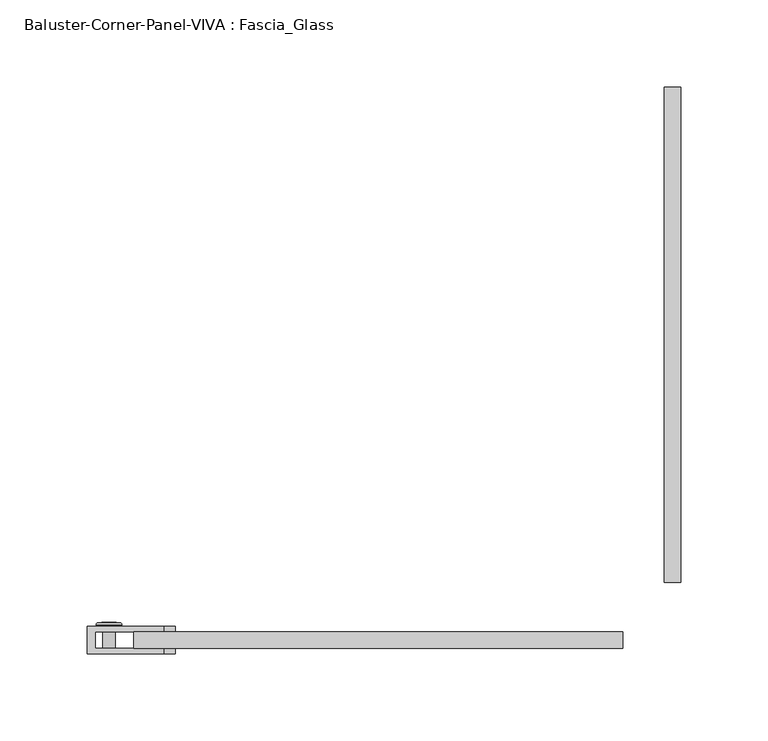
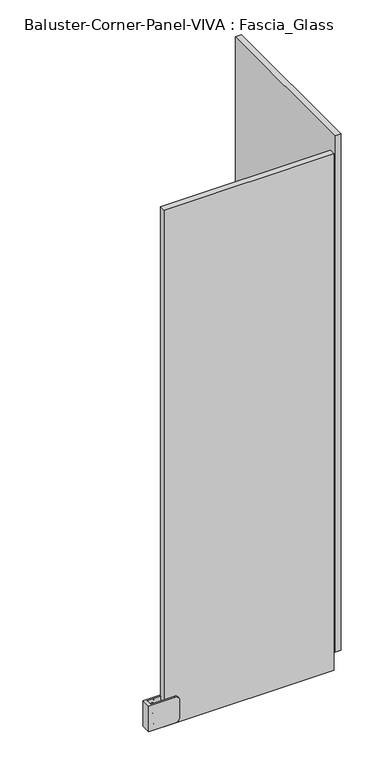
"""IFC4 building model written with IfcOpenShell, lengths in millimetres: railing geometry, Baluster-Corner-Panel-VIVA : Fascia_Glass."""

from ifc_helpers import new_model, si_unit, point, frame, origin, place, context, project, spatial, polyline, circle_curve, ellipse_curve, trimmed, outline, extrude, source, transform, mapped, element, save
from ifc_brep_helpers import plane_surface, cylinder_surface, revolved_surface, advanced_brep


def baluster_corner_panel_viva_fascia_glass_8fd0f557(model_context):
    return source(origin(), model_context, "Body", "SolidModel", [
        advanced_brep(
        [(-295.3261902, -36.7665, 138.7358896), (-295.3261902, -24.0665, 138.7358896), (-288.2352984, -24.0665, 138.7358896), (-288.2352984, -36.7665, 138.7358896), (-299.1885334, -24.0665, 138.7358896), (-284.3729552, -24.0665, 138.7358896), (-293.4368197, -23.199388, 138.7358896), (-293.4368197, -36.7665, 138.7358896), (-290.1246689, -36.7665, 138.7358896), (-290.1246689, -23.199388, 138.7358896), (-299.1885334, -23.2316551, 138.7358896), (-297.9072614, -21.9503831, 138.7358896), (-285.6542273, -21.9503831, 138.7358896), (-284.3729552, -23.2316551, 138.7358896), (-296.0793399, -21.9503831, 138.7358896), (-287.4821488, -21.9503831, 138.7358896), (-296.0793399, -23.199388, 138.7358896), (-287.4821488, -23.199388, 138.7358896)],
        [
            (0, 1),
            (1, 2, circle_curve(frame((-291.7807443, -24.0665, 138.7358896), z_axis=(0.0, -1.0, 0.0), x_axis=(1.0, 0.0, 0.0)), 3.5454459)),
            (2, 3),
            (3, 0, circle_curve(frame((-291.7807443, -36.7665, 138.7358896), z_axis=(0.0, 1.0, 0.0), x_axis=(1.0, 0.0, 0.0)), 3.5454459)),
            (2, 1, circle_curve(frame((-291.7807443, -24.0665, 138.7358896), z_axis=(0.0, -1.0, 0.0), x_axis=(1.0, 0.0, 0.0)), 3.5454459)),
            (0, 3, circle_curve(frame((-291.7807443, -36.7665, 138.7358896), z_axis=(0.0, 1.0, 0.0), x_axis=(1.0, 0.0, 0.0)), 3.5454459)),
            (1, 4),
            (4, 5, circle_curve(frame((-291.7807443, -24.0665, 138.7358896), z_axis=(0.0, -1.0, 0.0), x_axis=(1.0, 0.0, 0.0)), 7.4077891)),
            (5, 2),
            (5, 4, circle_curve(frame((-291.7807443, -24.0665, 138.7358896), z_axis=(0.0, -1.0, 0.0), x_axis=(1.0, 0.0, 0.0)), 7.4077891)),
            (6, 7),
            (7, 8, circle_curve(frame((-291.7807443, -36.7665, 138.7358896), z_axis=(0.0, -1.0, 0.0), x_axis=(1.0, 0.0, 0.0)), 1.6560754)),
            (8, 9),
            (9, 6, circle_curve(frame((-291.7807443, -23.199388, 138.7358896), z_axis=(0.0, 1.0, 0.0), x_axis=(1.0, 0.0, 0.0)), 1.6560754)),
            (8, 7, circle_curve(frame((-291.7807443, -36.7665, 138.7358896), z_axis=(0.0, -1.0, 0.0), x_axis=(1.0, 0.0, 0.0)), 1.6560754)),
            (6, 9, circle_curve(frame((-291.7807443, -23.199388, 138.7358896), z_axis=(0.0, 1.0, 0.0), x_axis=(1.0, 0.0, 0.0)), 1.6560754)),
            (10, 11, circle_curve(frame((-297.9072614, -23.2316551, 138.7358896), z_axis=(0.0, 0.0, -1.0), x_axis=(-1.0, 0.0, 0.0)), 1.281272)),
            (11, 12, circle_curve(frame((-291.7807443, -21.9503831, 138.7358896), z_axis=(0.0, -1.0, 0.0), x_axis=(1.0, 0.0, 0.0)), 6.1265171)),
            (12, 13, circle_curve(frame((-285.6542273, -23.2316551, 138.7358896), z_axis=(0.0, 0.0, -1.0), x_axis=(1.0, 0.0, 0.0)), 1.281272)),
            (13, 10, circle_curve(frame((-291.7807443, -23.2316551, 138.7358896), z_axis=(0.0, 1.0, 0.0), x_axis=(1.0, 0.0, 0.0)), 7.4077891)),
            (12, 11, circle_curve(frame((-291.7807443, -21.9503831, 138.7358896), z_axis=(0.0, -1.0, 0.0), x_axis=(1.0, 0.0, 0.0)), 6.1265171)),
            (10, 13, circle_curve(frame((-291.7807443, -23.2316551, 138.7358896), z_axis=(0.0, 1.0, 0.0), x_axis=(1.0, 0.0, 0.0)), 7.4077891)),
            (11, 14),
            (14, 15, circle_curve(frame((-291.7807443, -21.9503831, 138.7358896), z_axis=(0.0, -1.0, 0.0), x_axis=(1.0, 0.0, 0.0)), 4.2985955)),
            (15, 12),
            (15, 14, circle_curve(frame((-291.7807443, -21.9503831, 138.7358896), z_axis=(0.0, -1.0, 0.0), x_axis=(1.0, 0.0, 0.0)), 4.2985955)),
            (4, 10),
            (13, 5),
            (7, 0),
            (3, 8),
            (14, 16),
            (16, 17, circle_curve(frame((-291.7807443, -23.199388, 138.7358896), z_axis=(0.0, -1.0, 0.0), x_axis=(1.0, 0.0, 0.0)), 4.2985955)),
            (17, 15),
            (17, 16, circle_curve(frame((-291.7807443, -23.199388, 138.7358896), z_axis=(0.0, -1.0, 0.0), x_axis=(1.0, 0.0, 0.0)), 4.2985955)),
            (16, 6),
            (9, 17),
        ],
        [
            cylinder_surface(frame((-291.7807443, -27.5632331, 138.7358896), z_axis=(0.0, -1.0, 0.0), x_axis=(1.0, 0.0, 0.0)), 3.5454459),
            plane_surface(frame((-291.7807443, -24.0665, 138.7358896), z_axis=(0.0, -1.0, 0.0), x_axis=(1.0, 0.0, 0.0))),
            revolved_surface(polyline([(-290.12466889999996, -36.7665, 138.7358896), (-290.12466889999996, -23.199388, 138.7358896)]), (-291.7807443, -27.5632331, 138.7358896), (0.0, -1.0, 0.0)),
            revolved_surface(trimmed(ellipse_curve(frame((-285.6542273, -23.2316551, 138.7358896), z_axis=(0.0, 0.0, -1.0), x_axis=(1.0, 0.0, 0.0)), 1.281272, 1.281272), [point((-285.6542273, -21.9503831, 138.7358896))], [point((-284.3729552, -23.2316551, 138.7358896))], True, "CARTESIAN"), (-291.7807443, -27.5632331, 138.7358896), (0.0, -1.0, 0.0)),
            plane_surface(frame((-291.7807443, -21.9503831, 138.7358896), z_axis=(0.0, 1.0, 0.0), x_axis=(1.0, 0.0, 0.0))),
            cylinder_surface(frame((-291.7807443, -27.5632331, 138.7358896), z_axis=(0.0, -1.0, 0.0), x_axis=(1.0, 0.0, 0.0)), 7.4077891),
            plane_surface(frame((-291.7807443, -36.7665, 138.7358896), z_axis=(0.0, -1.0, 0.0), x_axis=(1.0, 0.0, 0.0))),
            revolved_surface(polyline([(-287.4821488, -23.199388, 138.7358896), (-287.4821488, -21.9503831, 138.7358896)]), (-291.7807443, -27.5632331, 138.7358896), (0.0, -1.0, 0.0)),
            plane_surface(frame((-291.7807443, -23.199388, 138.7358896), z_axis=(0.0, 1.0, 0.0), x_axis=(1.0, 0.0, 0.0))),
        ],
        [
            (0, [[1, 2, 3, 4]]),
            (0, [[-3, 5, -1, 6]]),
            (1, [[7, 8, 9, -2]]),
            (1, [[-9, 10, -7, -5]]),
            (2, [[11, 12, 13, 14]]),
            (2, [[-13, 15, -11, 16]]),
            (3, [[17, 18, 19, 20]]),
            (3, [[-19, 21, -17, 22]]),
            (4, [[23, 24, 25, -18]]),
            (4, [[-25, 26, -23, -21]]),
            (5, [[27, -20, 28, -8]]),
            (5, [[-28, -22, -27, -10]]),
            (6, [[29, -4, 30, -12]]),
            (6, [[-30, -6, -29, -15]]),
            (7, [[31, 32, 33, -24]]),
            (7, [[-33, 34, -31, -26]]),
            (8, [[35, -14, 36, -32]]),
            (8, [[-36, -16, -35, -34]]),
        ],
    ),
        advanced_brep(
        [(-295.3261902, -36.7665, 114.1296396), (-295.3261902, -24.0665, 114.1296396), (-288.2352984, -24.0665, 114.1296396), (-288.2352984, -36.7665, 114.1296396), (-299.1885334, -24.0665, 114.1296396), (-284.3729552, -24.0665, 114.1296396), (-293.4368197, -23.199388, 114.1296396), (-293.4368197, -36.7665, 114.1296396), (-290.1246689, -36.7665, 114.1296396), (-290.1246689, -23.199388, 114.1296396), (-299.1885334, -23.2316551, 114.1296396), (-297.9072614, -21.9503831, 114.1296396), (-285.6542273, -21.9503831, 114.1296396), (-284.3729552, -23.2316551, 114.1296396), (-296.0793399, -21.9503831, 114.1296396), (-287.4821488, -21.9503831, 114.1296396), (-296.0793399, -23.199388, 114.1296396), (-287.4821488, -23.199388, 114.1296396)],
        [
            (0, 1),
            (1, 2, circle_curve(frame((-291.7807443, -24.0665, 114.1296396), z_axis=(0.0, -1.0, 0.0), x_axis=(1.0, 0.0, 0.0)), 3.5454459)),
            (2, 3),
            (3, 0, circle_curve(frame((-291.7807443, -36.7665, 114.1296396), z_axis=(0.0, 1.0, 0.0), x_axis=(1.0, 0.0, 0.0)), 3.5454459)),
            (2, 1, circle_curve(frame((-291.7807443, -24.0665, 114.1296396), z_axis=(0.0, -1.0, 0.0), x_axis=(1.0, 0.0, 0.0)), 3.5454459)),
            (0, 3, circle_curve(frame((-291.7807443, -36.7665, 114.1296396), z_axis=(0.0, 1.0, 0.0), x_axis=(1.0, 0.0, 0.0)), 3.5454459)),
            (1, 4),
            (4, 5, circle_curve(frame((-291.7807443, -24.0665, 114.1296396), z_axis=(0.0, -1.0, 0.0), x_axis=(1.0, 0.0, 0.0)), 7.4077891)),
            (5, 2),
            (5, 4, circle_curve(frame((-291.7807443, -24.0665, 114.1296396), z_axis=(0.0, -1.0, 0.0), x_axis=(1.0, 0.0, 0.0)), 7.4077891)),
            (6, 7),
            (7, 8, circle_curve(frame((-291.7807443, -36.7665, 114.1296396), z_axis=(0.0, -1.0, 0.0), x_axis=(1.0, 0.0, 0.0)), 1.6560754)),
            (8, 9),
            (9, 6, circle_curve(frame((-291.7807443, -23.199388, 114.1296396), z_axis=(0.0, 1.0, 0.0), x_axis=(1.0, 0.0, 0.0)), 1.6560754)),
            (8, 7, circle_curve(frame((-291.7807443, -36.7665, 114.1296396), z_axis=(0.0, -1.0, 0.0), x_axis=(1.0, 0.0, 0.0)), 1.6560754)),
            (6, 9, circle_curve(frame((-291.7807443, -23.199388, 114.1296396), z_axis=(0.0, 1.0, 0.0), x_axis=(1.0, 0.0, 0.0)), 1.6560754)),
            (10, 11, circle_curve(frame((-297.9072614, -23.2316551, 114.1296396), z_axis=(0.0, 0.0, -1.0), x_axis=(-1.0, 0.0, 0.0)), 1.281272)),
            (11, 12, circle_curve(frame((-291.7807443, -21.9503831, 114.1296396), z_axis=(0.0, -1.0, 0.0), x_axis=(1.0, 0.0, 0.0)), 6.1265171)),
            (12, 13, circle_curve(frame((-285.6542273, -23.2316551, 114.1296396), z_axis=(0.0, 0.0, -1.0), x_axis=(1.0, 0.0, 0.0)), 1.281272)),
            (13, 10, circle_curve(frame((-291.7807443, -23.2316551, 114.1296396), z_axis=(0.0, 1.0, 0.0), x_axis=(1.0, 0.0, 0.0)), 7.4077891)),
            (12, 11, circle_curve(frame((-291.7807443, -21.9503831, 114.1296396), z_axis=(0.0, -1.0, 0.0), x_axis=(1.0, 0.0, 0.0)), 6.1265171)),
            (10, 13, circle_curve(frame((-291.7807443, -23.2316551, 114.1296396), z_axis=(0.0, 1.0, 0.0), x_axis=(1.0, 0.0, 0.0)), 7.4077891)),
            (11, 14),
            (14, 15, circle_curve(frame((-291.7807443, -21.9503831, 114.1296396), z_axis=(0.0, -1.0, 0.0), x_axis=(1.0, 0.0, 0.0)), 4.2985955)),
            (15, 12),
            (15, 14, circle_curve(frame((-291.7807443, -21.9503831, 114.1296396), z_axis=(0.0, -1.0, 0.0), x_axis=(1.0, 0.0, 0.0)), 4.2985955)),
            (7, 0),
            (3, 8),
            (4, 10),
            (13, 5),
            (14, 16),
            (16, 17, circle_curve(frame((-291.7807443, -23.199388, 114.1296396), z_axis=(0.0, -1.0, 0.0), x_axis=(1.0, 0.0, 0.0)), 4.2985955)),
            (17, 15),
            (17, 16, circle_curve(frame((-291.7807443, -23.199388, 114.1296396), z_axis=(0.0, -1.0, 0.0), x_axis=(1.0, 0.0, 0.0)), 4.2985955)),
            (16, 6),
            (9, 17),
        ],
        [
            cylinder_surface(frame((-291.7807443, -27.5632331, 114.1296396), z_axis=(0.0, -1.0, 0.0), x_axis=(1.0, 0.0, 0.0)), 3.5454459),
            plane_surface(frame((-291.7807443, -24.0665, 114.1296396), z_axis=(0.0, -1.0, 0.0), x_axis=(1.0, 0.0, 0.0))),
            revolved_surface(polyline([(-290.12466889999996, -36.7665, 114.1296396), (-290.12466889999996, -23.199388, 114.1296396)]), (-291.7807443, -27.5632331, 114.1296396), (0.0, -1.0, 0.0)),
            revolved_surface(trimmed(ellipse_curve(frame((-285.6542273, -23.2316551, 114.1296396), z_axis=(0.0, 0.0, -1.0), x_axis=(1.0, 0.0, 0.0)), 1.281272, 1.281272), [point((-285.6542273, -21.9503831, 114.1296396))], [point((-284.3729552, -23.2316551, 114.1296396))], True, "CARTESIAN"), (-291.7807443, -27.5632331, 114.1296396), (0.0, -1.0, 0.0)),
            plane_surface(frame((-291.7807443, -21.9503831, 114.1296396), z_axis=(0.0, 1.0, 0.0), x_axis=(1.0, 0.0, 0.0))),
            plane_surface(frame((-291.7807443, -36.7665, 114.1296396), z_axis=(0.0, -1.0, 0.0), x_axis=(1.0, 0.0, 0.0))),
            cylinder_surface(frame((-291.7807443, -27.5632331, 114.1296396), z_axis=(0.0, -1.0, 0.0), x_axis=(1.0, 0.0, 0.0)), 7.4077891),
            revolved_surface(polyline([(-287.4821488, -23.199388, 114.1296396), (-287.4821488, -21.9503831, 114.1296396)]), (-291.7807443, -27.5632331, 114.1296396), (0.0, -1.0, 0.0)),
            plane_surface(frame((-291.7807443, -23.199388, 114.1296396), z_axis=(0.0, 1.0, 0.0), x_axis=(1.0, 0.0, 0.0))),
        ],
        [
            (0, [[1, 2, 3, 4]]),
            (0, [[-3, 5, -1, 6]]),
            (1, [[7, 8, 9, -2]]),
            (1, [[-9, 10, -7, -5]]),
            (2, [[11, 12, 13, 14]]),
            (2, [[-13, 15, -11, 16]]),
            (3, [[17, 18, 19, 20]]),
            (3, [[-19, 21, -17, 22]]),
            (4, [[23, 24, 25, -18]]),
            (4, [[-25, 26, -23, -21]]),
            (5, [[27, -4, 28, -12]]),
            (5, [[-28, -6, -27, -15]]),
            (6, [[29, -20, 30, -8]]),
            (6, [[-30, -22, -29, -10]]),
            (7, [[31, 32, 33, -24]]),
            (7, [[-33, 34, -31, -26]]),
            (8, [[35, -14, 36, -32]]),
            (8, [[-36, -16, -35, -34]]),
        ],
    ),
        extrude(outline(polyline([(114.1296396, -295.8746726), (110.5841937, -293.8277085), (110.5841937, -289.7337802), (114.1296396, -287.686816), (117.6750855, -289.7337802), (117.6750855, -293.8277085), (114.1296396, -295.8746726)])), frame((0.0, -23.199388, 0.0), z_axis=(0.0, 1.0, 0.0), x_axis=(0.0, 0.0, 1.0)), (0.0, 0.0, 1.0), 1.4969696),
        advanced_brep(
        [(-304.4140891, -24.0665, 148.6577646), (-259.9640891, -24.0665, 148.6577646), (-253.6140891, -24.0665, 142.3077646), (-253.6140891, -24.0665, 110.5577646), (-259.9640891, -24.0665, 104.2077646), (-304.4140891, -24.0665, 104.2077646), (-304.4140891, -39.9415, 148.6577646), (-304.4140891, -39.9415, 104.2077646), (-259.9640891, -39.9415, 104.2077646), (-253.6140891, -39.9415, 110.5577646), (-253.6140891, -39.9415, 142.3077646), (-259.9640891, -39.9415, 148.6577646), (-259.9640891, -27.2415, 104.2077646), (-299.6960087, -27.2415, 104.2077646), (-299.6960087, -36.7665, 104.2077646), (-259.9640891, -36.7665, 104.2077646), (-299.6960087, -27.2415, 148.6577646), (-299.6960087, -36.7665, 148.6577646), (-253.6140891, -27.2415, 110.5577646), (-253.6140891, -27.2415, 142.3077646), (-259.9640891, -27.2415, 148.6577646), (-259.9640891, -36.7665, 148.6577646), (-253.6140891, -36.7665, 142.3077646), (-253.6140891, -36.7665, 110.5577646)],
        [
            (0, 1),
            (1, 2, circle_curve(frame((-259.9640891, -24.0665, 142.3077646), z_axis=(0.0, 1.0, 0.0), x_axis=(1.0, 0.0, 0.0)), 6.35)),
            (2, 3),
            (3, 4, circle_curve(frame((-259.9640891, -24.0665, 110.5577646), z_axis=(0.0, 1.0, 0.0), x_axis=(1.0, 0.0, 0.0)), 6.35)),
            (4, 5),
            (5, 0),
            (6, 7),
            (7, 8),
            (8, 9, circle_curve(frame((-259.9640891, -39.9415, 110.5577646), z_axis=(0.0, -1.0, 0.0), x_axis=(1.0, 0.0, 0.0)), 6.35)),
            (9, 10),
            (10, 11, circle_curve(frame((-259.9640891, -39.9415, 142.3077646), z_axis=(0.0, -1.0, 0.0), x_axis=(1.0, 0.0, 0.0)), 6.35)),
            (11, 6),
            (5, 7),
            (6, 0),
            (4, 12),
            (12, 13),
            (13, 14),
            (14, 15),
            (15, 8),
            (13, 16),
            (16, 17),
            (17, 14),
            (12, 18, circle_curve(frame((-259.9640891, -27.2415, 110.5577646), z_axis=(0.0, -1.0, 0.0), x_axis=(1.0, 0.0, 0.0)), 6.35)),
            (18, 19),
            (19, 20, circle_curve(frame((-259.9640891, -27.2415, 142.3077646), z_axis=(0.0, -1.0, 0.0), x_axis=(1.0, 0.0, 0.0)), 6.35)),
            (20, 16),
            (17, 21),
            (21, 22, circle_curve(frame((-259.9640891, -36.7665, 142.3077646), z_axis=(0.0, 1.0, 0.0), x_axis=(1.0, 0.0, 0.0)), 6.35)),
            (22, 23),
            (23, 15, circle_curve(frame((-259.9640891, -36.7665, 110.5577646), z_axis=(0.0, 1.0, 0.0), x_axis=(1.0, 0.0, 0.0)), 6.35)),
            (23, 9),
            (3, 18),
            (22, 10),
            (2, 19),
            (21, 11),
            (1, 20),
        ],
        [
            plane_surface(frame((-304.4140891, -24.0665, 104.2077646), z_axis=(0.0, 1.0, 0.0), x_axis=(0.0, 0.0, -1.0))),
            plane_surface(frame((-304.4140891, -39.9415, 104.2077646), z_axis=(0.0, -1.0, 0.0), x_axis=(0.0, 0.0, 1.0))),
            plane_surface(frame((-304.4140891, -24.0665, 148.6577646), z_axis=(-1.0, 0.0, 0.0), x_axis=(0.0, -1.0, 0.0))),
            plane_surface(frame((-304.4140891, -24.0665, 104.2077646), z_axis=(0.0, 0.0, -1.0), x_axis=(0.0, -1.0, 0.0))),
            plane_surface(frame((-299.6960087, -36.7665, 161.3577646), z_axis=(1.0, 0.0, 0.0), x_axis=(0.0, 0.0, -1.0))),
            plane_surface(frame((-299.6960087, -27.2415, 161.3577646), z_axis=(0.0, -1.0, 0.0), x_axis=(0.0, 0.0, -1.0))),
            plane_surface(frame((-240.9140891, -36.7665, 161.3577646), z_axis=(0.0, 1.0, 0.0), x_axis=(0.0, 0.0, -1.0))),
            cylinder_surface(frame((-259.9640891, -39.9415, 110.5577646), z_axis=(0.0, 1.0, 0.0), x_axis=(1.0, 0.0, 0.0)), 6.35),
            plane_surface(frame((-253.6140891, -24.0665, 110.5577646), z_axis=(1.0, 0.0, 0.0), x_axis=(0.0, -1.0, 0.0))),
            cylinder_surface(frame((-259.9640891, -39.9415, 142.3077646), z_axis=(0.0, 1.0, 0.0), x_axis=(1.0, 0.0, 0.0)), 6.35),
            plane_surface(frame((-259.9640891, -24.0665, 148.6577646), z_axis=(0.0, 0.0, 1.0), x_axis=(0.0, -1.0, 0.0))),
        ],
        [
            (0, [[1, 2, 3, 4, 5, 6]]),
            (1, [[7, 8, 9, 10, 11, 12]]),
            (2, [[13, -7, 14, -6]]),
            (3, [[15, 16, 17, 18, 19, -8, -13, -5]]),
            (4, [[-17, 20, 21, 22]]),
            (5, [[-16, 23, 24, 25, 26, -20]]),
            (6, [[27, 28, 29, 30, -18, -22]]),
            (7, [[-19, -30, 31, -9]]),
            (7, [[32, -23, -15, -4]]),
            (8, [[-31, -29, 33, -10]]),
            (8, [[34, -24, -32, -3]]),
            (9, [[-33, -28, 35, -11]]),
            (9, [[36, -25, -34, -2]]),
            (10, [[-14, -12, -35, -27, -21, -26, -36, -1]]),
        ],
    ),
        extrude(outline(polyline([(36.7665, 1.0851207), (27.2415, 1.0851207), (27.2415, 285.8305288), (36.7665, 285.8305288), (36.7665, 1.0851207)])), frame((0.0, 0.0, 101.6), z_axis=(0.0, 0.0, 1.0), x_axis=(1.0, 0.0, 0.0)), (0.0, 0.0, 1.0), 901.7),
        extrude(outline(polyline([(-277.4710087, -36.7665), (-277.4710087, -27.2415), (3.429, -27.2415), (3.429, -36.7665), (-277.4710087, -36.7665)])), frame((0.0, 0.0, 101.6), z_axis=(0.0, 0.0, 1.0), x_axis=(1.0, 0.0, 0.0)), (0.0, 0.0, 1.0), 901.7),
    ])


if __name__ == "__main__":
    model = new_model("IFC4")
    model_context = context("Model", 3, world=origin())
    ifc_project = project(units=[si_unit("LENGTHUNIT", "METRE", prefix="MILLI")], contexts=[model_context])
    site = spatial("IfcSite", under=ifc_project)
    building = spatial("IfcBuilding", under=site)
    placement = place(None, origin())
    baluster_corner_panel_viva_fascia_glass_shape = baluster_corner_panel_viva_fascia_glass_8fd0f557(model_context)
    element("IfcRailing", 1, ObjectType="Baluster-Corner-Panel-VIVA : Fascia_Glass", at=placement, inside=building, context=model_context, shape_type="MappedRepresentation", body=[
        mapped(baluster_corner_panel_viva_fascia_glass_shape, transform((0.0, 0.0, 0.0), x_axis=(1.0, 0.0, 0.0), y_axis=(0.0, 1.0, 0.0), z_axis=(0.0, 0.0, 1.0))),
    ])
    save(model, "model.ifc")
